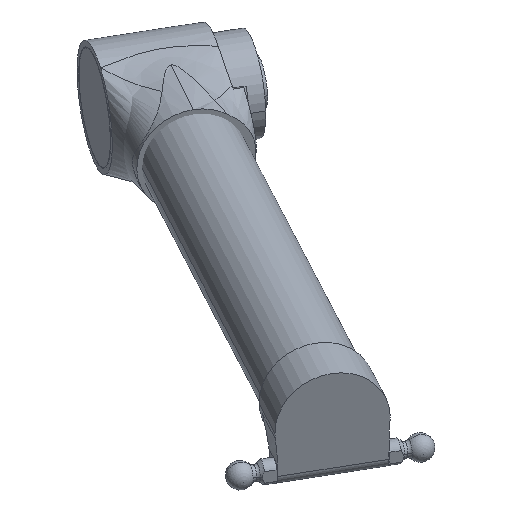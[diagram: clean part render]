
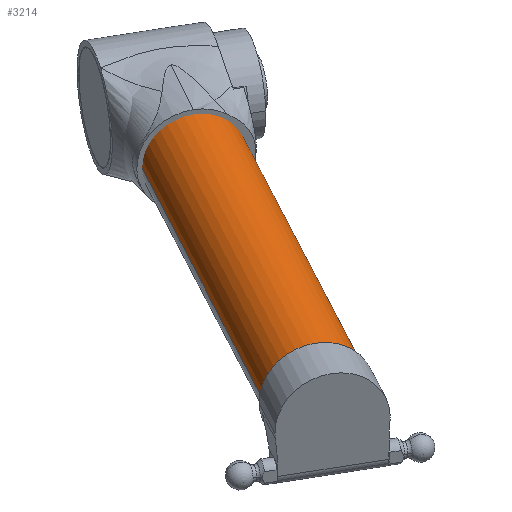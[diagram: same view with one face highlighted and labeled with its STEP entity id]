
A CAD part, isometric view. The second image highlights one B-rep face of the part: STEP entity #3214.
In plain terms, the highlighted cylindrical face has radius 29 mm (diameter 58 mm), a partial arc.
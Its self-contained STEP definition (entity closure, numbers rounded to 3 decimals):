
#290 = CARTESIAN_POINT ( 'NONE',  ( -270.744, -468.943, -248.698 ) ) ;
#357 = LINE ( 'NONE', #2511, #3769 ) ;
#545 = EDGE_CURVE ( 'NONE', #1253, #2480, #2323, .T. ) ;
#721 = CIRCLE ( 'NONE', #1504, 29. ) ;
#811 = EDGE_CURVE ( 'NONE', #1253, #2387, #3873, .T. ) ;
#910 = VERTEX_POINT ( 'NONE', #3579 ) ;
#996 = EDGE_CURVE ( 'NONE', #2480, #910, #721, .T. ) ;
#1185 = DIRECTION ( 'NONE',  ( -0.866, 0.5, 0. ) ) ;
#1253 = VERTEX_POINT ( 'NONE', #1853 ) ;
#1312 = DIRECTION ( 'NONE',  ( 0.866, -0.5, 0. ) ) ;
#1504 = AXIS2_PLACEMENT_3D ( 'NONE', #2939, #3521, #3263 ) ;
#1529 = ORIENTED_EDGE ( 'NONE', *, *, #545, .T. ) ;
#1853 = CARTESIAN_POINT ( 'NONE',  ( -245.63, -483.443, -248.698 ) ) ;
#1877 = CARTESIAN_POINT ( 'NONE',  ( -270.744, -468.943, -248.698 ) ) ;
#1956 = AXIS2_PLACEMENT_3D ( 'NONE', #1877, #2254, #1312 ) ;
#2036 = AXIS2_PLACEMENT_3D ( 'NONE', #290, #2731, #1185 ) ;
#2254 = DIRECTION ( 'NONE',  ( -0.499, -0.863, 0.077 ) ) ;
#2282 = CARTESIAN_POINT ( 'NONE',  ( -295.859, -454.443, -248.698 ) ) ;
#2323 = LINE ( 'NONE', #3558, #3438 ) ;
#2387 = VERTEX_POINT ( 'NONE', #2282 ) ;
#2480 = VERTEX_POINT ( 'NONE', #3033 ) ;
#2511 = CARTESIAN_POINT ( 'NONE',  ( -295.859, -454.443, -248.698 ) ) ;
#2731 = DIRECTION ( 'NONE',  ( 0.499, 0.863, -0.077 ) ) ;
#2742 = ORIENTED_EDGE ( 'NONE', *, *, #3437, .F. ) ;
#2939 = CARTESIAN_POINT ( 'NONE',  ( -120.19, -208.176, -271.89 ) ) ;
#3033 = CARTESIAN_POINT ( 'NONE',  ( -95.075, -222.676, -271.89 ) ) ;
#3036 = ORIENTED_EDGE ( 'NONE', *, *, #996, .T. ) ;
#3103 = FACE_OUTER_BOUND ( 'NONE', #3566, .T. ) ;
#3214 = ADVANCED_FACE ( 'NONE', ( #3103 ), #3639, .T. ) ;
#3263 = DIRECTION ( 'NONE',  ( 0.866, -0.5, 0. ) ) ;
#3268 = DIRECTION ( 'NONE',  ( 0.499, 0.863, -0.077 ) ) ;
#3437 = EDGE_CURVE ( 'NONE', #2387, #910, #357, .T. ) ;
#3438 = VECTOR ( 'NONE', #3268, 1000. ) ;
#3449 = DIRECTION ( 'NONE',  ( 0.499, 0.863, -0.077 ) ) ;
#3521 = DIRECTION ( 'NONE',  ( -0.499, -0.863, 0.077 ) ) ;
#3558 = CARTESIAN_POINT ( 'NONE',  ( -245.63, -483.443, -248.698 ) ) ;
#3566 = EDGE_LOOP ( 'NONE', ( #3995, #1529, #3036, #2742 ) ) ;
#3579 = CARTESIAN_POINT ( 'NONE',  ( -145.305, -193.676, -271.89 ) ) ;
#3639 = CYLINDRICAL_SURFACE ( 'NONE', #2036, 29. ) ;
#3769 = VECTOR ( 'NONE', #3449, 1000. ) ;
#3873 = CIRCLE ( 'NONE', #1956, 29. ) ;
#3995 = ORIENTED_EDGE ( 'NONE', *, *, #811, .F. ) ;
